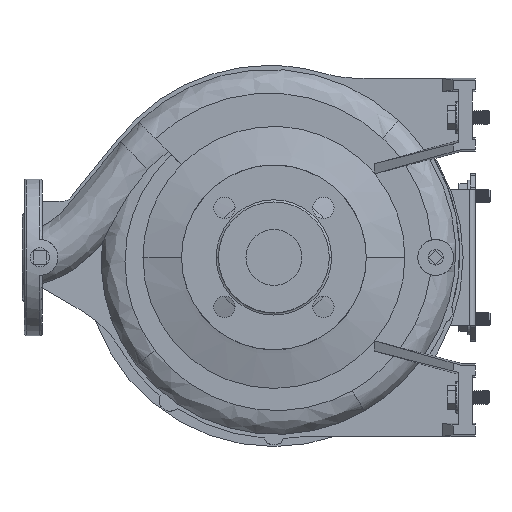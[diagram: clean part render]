
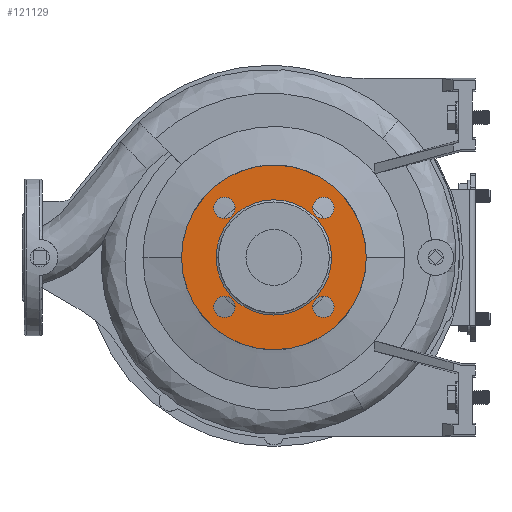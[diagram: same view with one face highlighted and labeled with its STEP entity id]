
A CAD part, left-side view. The second image highlights one B-rep face of the part: STEP entity #121129.
In plain terms, the highlighted planar face has unit normal (-1, 0, 0).
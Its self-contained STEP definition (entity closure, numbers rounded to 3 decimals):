
#1454 = ORIENTED_EDGE ( 'NONE', *, *, #112325, .F. ) ;
#1929 = ORIENTED_EDGE ( 'NONE', *, *, #50623, .T. ) ;
#4776 = CARTESIAN_POINT ( 'NONE',  ( -98., 0., 0. ) ) ;
#5112 = EDGE_CURVE ( 'NONE', #79723, #54344, #48905, .T. ) ;
#5508 = DIRECTION ( 'NONE',  ( -1., 0., 0. ) ) ;
#6416 = CARTESIAN_POINT ( 'NONE',  ( -98., -34.694, 44.194 ) ) ;
#7497 = CARTESIAN_POINT ( 'NONE',  ( -98., 44.194, -44.194 ) ) ;
#8678 = VERTEX_POINT ( 'NONE', #161330 ) ;
#8695 = VERTEX_POINT ( 'NONE', #180792 ) ;
#9633 = CARTESIAN_POINT ( 'NONE',  ( -98., -53.694, -44.194 ) ) ;
#10568 = EDGE_LOOP ( 'NONE', ( #99397, #85440 ) ) ;
#11651 = DIRECTION ( 'NONE',  ( 0., 1., 0. ) ) ;
#11910 = DIRECTION ( 'NONE',  ( 0., -1., 0. ) ) ;
#14024 = ORIENTED_EDGE ( 'NONE', *, *, #82203, .F. ) ;
#14692 = VERTEX_POINT ( 'NONE', #131139 ) ;
#14772 = PLANE ( 'NONE',  #128411 ) ;
#15425 = EDGE_LOOP ( 'NONE', ( #14024, #1454 ) ) ;
#16699 = AXIS2_PLACEMENT_3D ( 'NONE', #84485, #142005, #67934 ) ;
#23035 = AXIS2_PLACEMENT_3D ( 'NONE', #112843, #100144, #111890 ) ;
#23128 = CIRCLE ( 'NONE', #163265, 9.5 ) ;
#23548 = EDGE_CURVE ( 'NONE', #14692, #73519, #87125, .T. ) ;
#23837 = EDGE_LOOP ( 'NONE', ( #163894, #79900 ) ) ;
#24258 = DIRECTION ( 'NONE',  ( -1., 0., 0. ) ) ;
#24340 = CARTESIAN_POINT ( 'NONE',  ( -98., 0., 0. ) ) ;
#25342 = VERTEX_POINT ( 'NONE', #137134 ) ;
#26505 = CARTESIAN_POINT ( 'NONE',  ( -98., 51.5, 0. ) ) ;
#26653 = VERTEX_POINT ( 'NONE', #73416 ) ;
#26956 = CARTESIAN_POINT ( 'NONE',  ( -98., -51.5, 0. ) ) ;
#32126 = DIRECTION ( 'NONE',  ( 1., 0., 0. ) ) ;
#41162 = FACE_BOUND ( 'NONE', #82607, .T. ) ;
#44875 = CARTESIAN_POINT ( 'NONE',  ( -98., 53.694, -44.194 ) ) ;
#47630 = DIRECTION ( 'NONE',  ( -1., 0., 0. ) ) ;
#48905 = CIRCLE ( 'NONE', #157858, 9.5 ) ;
#49837 = AXIS2_PLACEMENT_3D ( 'NONE', #24340, #161785, #11651 ) ;
#50623 = EDGE_CURVE ( 'NONE', #172023, #8695, #131625, .T. ) ;
#50745 = EDGE_CURVE ( 'NONE', #8695, #172023, #94338, .T. ) ;
#52986 = CIRCLE ( 'NONE', #65524, 9.5 ) ;
#53576 = CARTESIAN_POINT ( 'NONE',  ( -98., 44.194, -44.194 ) ) ;
#54344 = VERTEX_POINT ( 'NONE', #9633 ) ;
#55483 = EDGE_LOOP ( 'NONE', ( #81341, #131800 ) ) ;
#58661 = FACE_BOUND ( 'NONE', #55483, .T. ) ;
#59473 = DIRECTION ( 'NONE',  ( -1., 0., 0. ) ) ;
#60092 = AXIS2_PLACEMENT_3D ( 'NONE', #4776, #114598, #137411 ) ;
#61233 = DIRECTION ( 'NONE',  ( -1., 0., 0. ) ) ;
#65524 = AXIS2_PLACEMENT_3D ( 'NONE', #53576, #59473, #178413 ) ;
#66978 = DIRECTION ( 'NONE',  ( 0., 0., 1. ) ) ;
#67934 = DIRECTION ( 'NONE',  ( 0., 1., 0. ) ) ;
#68474 = EDGE_LOOP ( 'NONE', ( #188548, #1929 ) ) ;
#69567 = EDGE_CURVE ( 'NONE', #25342, #122156, #158832, .T. ) ;
#72255 = ORIENTED_EDGE ( 'NONE', *, *, #166210, .F. ) ;
#73416 = CARTESIAN_POINT ( 'NONE',  ( -98., 34.694, 44.194 ) ) ;
#73519 = VERTEX_POINT ( 'NONE', #187417 ) ;
#74464 = CIRCLE ( 'NONE', #99360, 9.5 ) ;
#77867 = DIRECTION ( 'NONE',  ( 0., 1., 0. ) ) ;
#79723 = VERTEX_POINT ( 'NONE', #82494 ) ;
#79900 = ORIENTED_EDGE ( 'NONE', *, *, #167058, .F. ) ;
#80974 = AXIS2_PLACEMENT_3D ( 'NONE', #92430, #61233, #108985 ) ;
#81341 = ORIENTED_EDGE ( 'NONE', *, *, #136986, .F. ) ;
#81560 = CARTESIAN_POINT ( 'NONE',  ( -98., 44.194, 44.194 ) ) ;
#82203 = EDGE_CURVE ( 'NONE', #26653, #101660, #191199, .T. ) ;
#82494 = CARTESIAN_POINT ( 'NONE',  ( -98., -34.694, -44.194 ) ) ;
#82607 = EDGE_LOOP ( 'NONE', ( #165018, #72255 ) ) ;
#84485 = CARTESIAN_POINT ( 'NONE',  ( -98., 0., 0. ) ) ;
#85440 = ORIENTED_EDGE ( 'NONE', *, *, #149114, .F. ) ;
#87125 = CIRCLE ( 'NONE', #49837, 82.5 ) ;
#91460 = CIRCLE ( 'NONE', #16699, 82.5 ) ;
#92430 = CARTESIAN_POINT ( 'NONE',  ( -98., -44.194, 44.194 ) ) ;
#94338 = CIRCLE ( 'NONE', #60092, 51.5 ) ;
#99360 = AXIS2_PLACEMENT_3D ( 'NONE', #81560, #5508, #124443 ) ;
#99397 = ORIENTED_EDGE ( 'NONE', *, *, #23548, .F. ) ;
#100144 = DIRECTION ( 'NONE',  ( -1., 0., 0. ) ) ;
#100636 = FACE_BOUND ( 'NONE', #15425, .T. ) ;
#101585 = FACE_BOUND ( 'NONE', #23837, .T. ) ;
#101660 = VERTEX_POINT ( 'NONE', #133120 ) ;
#108985 = DIRECTION ( 'NONE',  ( 0., 0., -1. ) ) ;
#111890 = DIRECTION ( 'NONE',  ( 0., -1., 0. ) ) ;
#112325 = EDGE_CURVE ( 'NONE', #101660, #26653, #74464, .T. ) ;
#112843 = CARTESIAN_POINT ( 'NONE',  ( -98., 44.194, 44.194 ) ) ;
#114598 = DIRECTION ( 'NONE',  ( 1., 0., 0. ) ) ;
#115834 = VERTEX_POINT ( 'NONE', #44875 ) ;
#120834 = CARTESIAN_POINT ( 'NONE',  ( -98., 0., 0. ) ) ;
#121129 = ADVANCED_FACE ( 'NONE', ( #101585, #58661, #41162, #100636, #161060, #132767 ), #14772, .T. ) ;
#121369 = AXIS2_PLACEMENT_3D ( 'NONE', #125376, #168306, #184869 ) ;
#122156 = VERTEX_POINT ( 'NONE', #6416 ) ;
#124443 = DIRECTION ( 'NONE',  ( 0., -1., 0. ) ) ;
#124506 = DIRECTION ( 'NONE',  ( -1., 0., 0. ) ) ;
#125376 = CARTESIAN_POINT ( 'NONE',  ( -98., -44.194, 44.194 ) ) ;
#127579 = CIRCLE ( 'NONE', #80974, 9.5 ) ;
#128411 = AXIS2_PLACEMENT_3D ( 'NONE', #26505, #192264, #11910 ) ;
#131139 = CARTESIAN_POINT ( 'NONE',  ( -98., 82.5, 0. ) ) ;
#131625 = CIRCLE ( 'NONE', #137896, 51.5 ) ;
#131800 = ORIENTED_EDGE ( 'NONE', *, *, #5112, .F. ) ;
#132767 = FACE_OUTER_BOUND ( 'NONE', #10568, .T. ) ;
#133120 = CARTESIAN_POINT ( 'NONE',  ( -98., 53.694, 44.194 ) ) ;
#135178 = EDGE_CURVE ( 'NONE', #8678, #115834, #175528, .T. ) ;
#136986 = EDGE_CURVE ( 'NONE', #54344, #79723, #23128, .T. ) ;
#137134 = CARTESIAN_POINT ( 'NONE',  ( -98., -53.694, 44.194 ) ) ;
#137411 = DIRECTION ( 'NONE',  ( 0., 1., 0. ) ) ;
#137896 = AXIS2_PLACEMENT_3D ( 'NONE', #120834, #32126, #181309 ) ;
#142005 = DIRECTION ( 'NONE',  ( 1., 0., 0. ) ) ;
#149114 = EDGE_CURVE ( 'NONE', #73519, #14692, #91460, .T. ) ;
#155934 = DIRECTION ( 'NONE',  ( 0., 1., 0. ) ) ;
#157831 = CARTESIAN_POINT ( 'NONE',  ( -98., -44.194, -44.194 ) ) ;
#157858 = AXIS2_PLACEMENT_3D ( 'NONE', #157831, #24258, #155934 ) ;
#158832 = CIRCLE ( 'NONE', #121369, 9.5 ) ;
#161060 = FACE_BOUND ( 'NONE', #68474, .T. ) ;
#161330 = CARTESIAN_POINT ( 'NONE',  ( -98., 34.694, -44.194 ) ) ;
#161785 = DIRECTION ( 'NONE',  ( 1., 0., 0. ) ) ;
#163265 = AXIS2_PLACEMENT_3D ( 'NONE', #182159, #47630, #77867 ) ;
#163894 = ORIENTED_EDGE ( 'NONE', *, *, #135178, .F. ) ;
#165018 = ORIENTED_EDGE ( 'NONE', *, *, #69567, .F. ) ;
#166210 = EDGE_CURVE ( 'NONE', #122156, #25342, #127579, .T. ) ;
#167058 = EDGE_CURVE ( 'NONE', #115834, #8678, #52986, .T. ) ;
#168306 = DIRECTION ( 'NONE',  ( -1., 0., 0. ) ) ;
#172023 = VERTEX_POINT ( 'NONE', #26956 ) ;
#175528 = CIRCLE ( 'NONE', #184877, 9.5 ) ;
#178413 = DIRECTION ( 'NONE',  ( 0., 0., 1. ) ) ;
#180792 = CARTESIAN_POINT ( 'NONE',  ( -98., 51.5, 0. ) ) ;
#181309 = DIRECTION ( 'NONE',  ( 0., 1., 0. ) ) ;
#182159 = CARTESIAN_POINT ( 'NONE',  ( -98., -44.194, -44.194 ) ) ;
#184869 = DIRECTION ( 'NONE',  ( 0., 0., -1. ) ) ;
#184877 = AXIS2_PLACEMENT_3D ( 'NONE', #7497, #124506, #66978 ) ;
#187417 = CARTESIAN_POINT ( 'NONE',  ( -98., -82.5, 0. ) ) ;
#188548 = ORIENTED_EDGE ( 'NONE', *, *, #50745, .T. ) ;
#191199 = CIRCLE ( 'NONE', #23035, 9.5 ) ;
#192264 = DIRECTION ( 'NONE',  ( -1., 0., 0. ) ) ;
